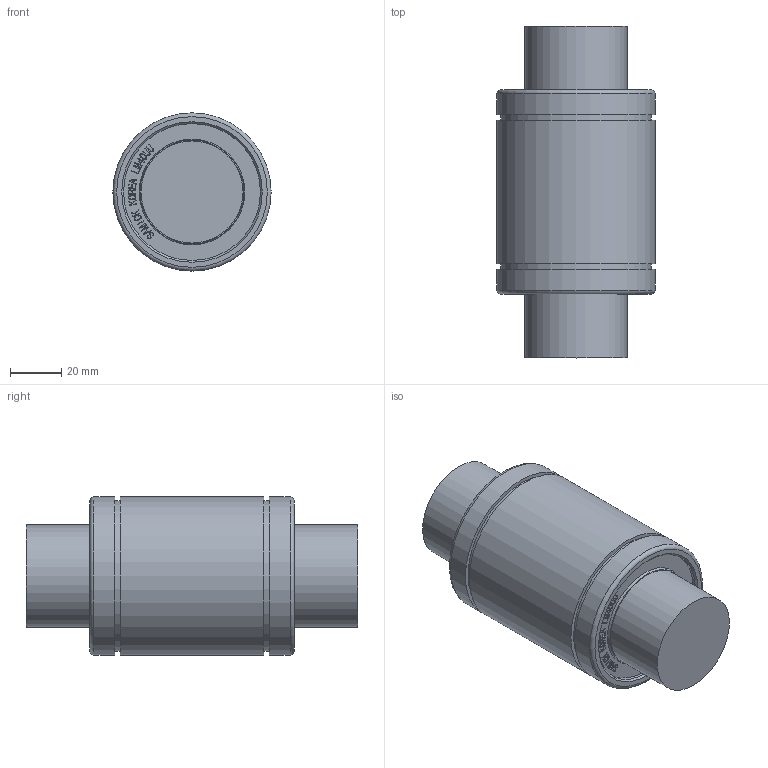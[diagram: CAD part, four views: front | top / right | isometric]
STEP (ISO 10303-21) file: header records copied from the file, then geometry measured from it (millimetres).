
FILE_DESCRIPTION(/* description */ (''),/* implementation_level */ '2;1');
FILE_NAME(/* name */ 'W:\(01) 2024년 홈페이지 CAD파일 최신화\LME\IPT\LME40UU.stp',/* time_stamp */ '2025-01-25T08:56:19+09:00',/* author */ ('서우현'),/* organization */ (''),/* preprocessor_version */ 'ST-DEVELOPER v17.2',/* originating_system */ 'Autodesk Inventor 2019',/* authorisation */ '');
FILE_SCHEMA (('AUTOMOTIVE_DESIGN { 1 0 10303 214 3 1 1 }'));
Length unit declared in the file: millimetre
Products named in the file (1): LM5
Bounding box: 62 x 130 x 62 mm (x, y, z)
Volume: 299193.2 mm3; surface area: 29718.3 mm2
Topology: 1 solids, 1 shells, 827 faces, 2329 edges, 1560 vertices
Faces by surface type: bspline 572, plane 240, cylinder 9, cone 4, torus 2
Full cylindrical faces by diameter (mm): 40 x2, 53.65 x2, 59 x2, 62 x3
Entity records: 28195 total; most frequent: CARTESIAN_POINT 9865, ORIENTED_EDGE 4658, EDGE_CURVE 2329, DIRECTION 1751, VERTEX_POINT 1560, B_SPLINE_CURVE_WITH_KNOTS 1144, LINE 1131, VECTOR 1131
